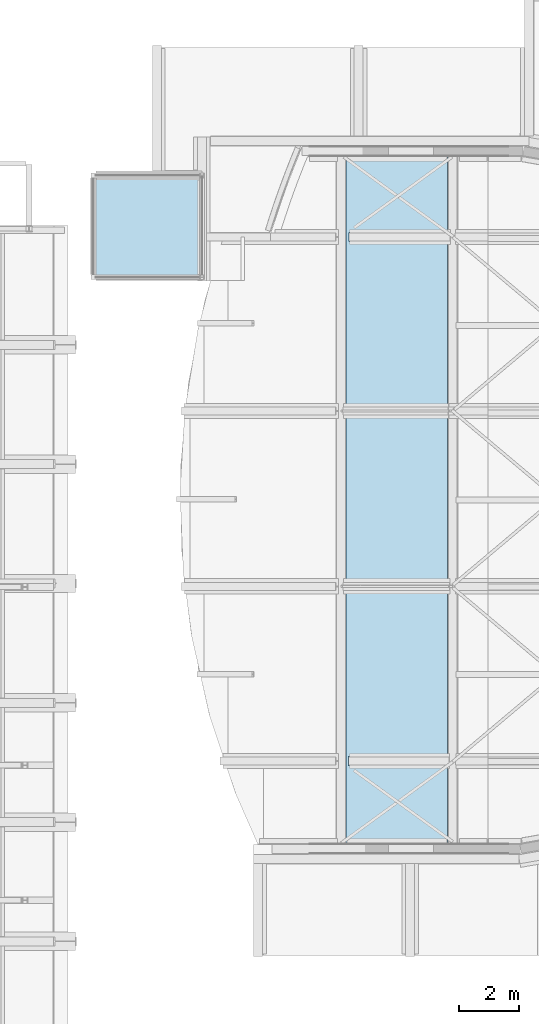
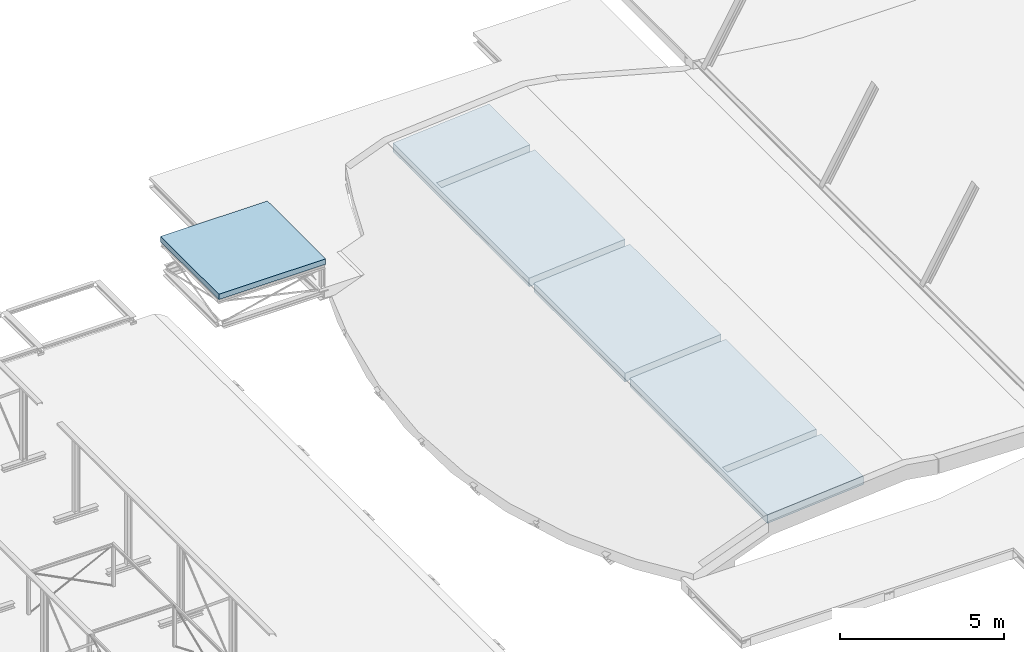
# One storey, part 37 of 50: 2 slabs, 8 openings.
"""IFC2X3 building model written with IfcOpenShell, lengths in millimetres."""

from ifc_helpers import new_model, entity, si_unit, converted_unit, derived_unit, direction, frame, frame_2d, origin, place, context, subcontext, project, spatial, rectangle, extrude, faceted_brep, material, layer, layer_set, layer_usage, type_object, element, save


model = new_model("IFC2X3")

# Units and contexts
model_context = context("Model", 3, precision=0.01, world=origin(), true_north=direction((6.12303176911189e-17, 1.0)))
body_context = subcontext(model_context, "Body", "Model", "MODEL_VIEW")
ifc_project = project(units=[si_unit("LENGTHUNIT", "METRE", prefix="MILLI"), si_unit("AREAUNIT", "SQUARE_METRE", prefix="MILLI"), si_unit("VOLUMEUNIT", "CUBIC_METRE"), converted_unit("PLANEANGLEUNIT", "DEGREE", entity("IfcRatioMeasure", 0.0174532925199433), si_unit("PLANEANGLEUNIT", "RADIAN"), dimensions=[0, 0, 0, 0, 0, 0, 0]), si_unit("MASSUNIT", "GRAM", prefix="KILO"), derived_unit("MASSDENSITYUNIT", [(si_unit("MASSUNIT", "GRAM", prefix="KILO"), 1), (si_unit("LENGTHUNIT", "METRE"), -3)]), derived_unit("MOMENTOFINERTIAUNIT", [(si_unit("LENGTHUNIT", "METRE"), 4)]), si_unit("TIMEUNIT", "SECOND"), si_unit("FREQUENCYUNIT", "HERTZ"), si_unit("THERMODYNAMICTEMPERATUREUNIT", "DEGREE_CELSIUS"), derived_unit("THERMALTRANSMITTANCEUNIT", [(si_unit("MASSUNIT", "GRAM", prefix="KILO"), 1), (si_unit("THERMODYNAMICTEMPERATUREUNIT", "KELVIN"), -1), (si_unit("TIMEUNIT", "SECOND"), -3)]), derived_unit("VOLUMETRICFLOWRATEUNIT", [(si_unit("LENGTHUNIT", "METRE"), 3), (si_unit("TIMEUNIT", "SECOND"), -1)]), si_unit("ELECTRICCURRENTUNIT", "AMPERE"), si_unit("ELECTRICVOLTAGEUNIT", "VOLT"), si_unit("POWERUNIT", "WATT"), si_unit("FORCEUNIT", "NEWTON", prefix="KILO"), si_unit("ILLUMINANCEUNIT", "LUX"), si_unit("LUMINOUSFLUXUNIT", "LUMEN"), si_unit("LUMINOUSINTENSITYUNIT", "CANDELA"), derived_unit("USERDEFINED", [(si_unit("MASSUNIT", "GRAM", prefix="KILO"), -1), (si_unit("LENGTHUNIT", "METRE"), -2), (si_unit("TIMEUNIT", "SECOND"), 3), (si_unit("LUMINOUSFLUXUNIT", "LUMEN"), 1)]), derived_unit("LINEARVELOCITYUNIT", [(si_unit("LENGTHUNIT", "METRE"), 1), (si_unit("TIMEUNIT", "SECOND"), -1)]), si_unit("PRESSUREUNIT", "PASCAL"), derived_unit("USERDEFINED", [(si_unit("LENGTHUNIT", "METRE"), -2), (si_unit("MASSUNIT", "GRAM", prefix="KILO"), 1), (si_unit("TIMEUNIT", "SECOND"), -2)]), derived_unit("LINEARFORCEUNIT", [(si_unit("MASSUNIT", "GRAM", prefix="KILO"), 1), (si_unit("LENGTHUNIT", "METRE"), 1), (si_unit("TIMEUNIT", "SECOND"), -2), (si_unit("LENGTHUNIT", "METRE"), -1)]), derived_unit("PLANARFORCEUNIT", [(si_unit("MASSUNIT", "GRAM", prefix="KILO"), 1), (si_unit("LENGTHUNIT", "METRE"), 1), (si_unit("TIMEUNIT", "SECOND"), -2), (si_unit("LENGTHUNIT", "METRE"), -2)])], contexts=[model_context])

# Site, building, storey
site_placement = place(None, origin())
site = spatial("IfcSite", under=ifc_project, at=site_placement, Name="Theater aan de Parade", CompositionType="ELEMENT")
building_placement = place(site_placement, origin())
building = spatial("IfcBuilding", under=site, at=building_placement, Name="Theater aan de Parade", CompositionType="ELEMENT")
storey_placement = place(building_placement, frame((0.0, 0.0, 15820.0)))
storey = spatial("IfcBuildingStorey", under=building, at=storey_placement, Name="04 vierde verdieping", CompositionType="ELEMENT", Elevation=15820.0)

# Slab, openings
ifc_material_1 = material(Name="00_PBT_MAT_systeemvloer")
ifc_layer_1 = layer(ifc_material_1, 320.0)
ifc_layer_set_1 = layer_set([ifc_layer_1], Name="Floor:28_PBT_FL_kanaalplaat_d=320")
ifc_layer_usage_1 = layer_usage(ifc_layer_set_1, "AXIS3", "POSITIVE", 0.0)
slab_type_1 = type_object("IfcSlabType", Name="Floor:28_PBT_FL_kanaalplaat_d=320", PredefinedType="FLOOR")
slab_1_placement = place(storey_placement, frame((45780.0, 20980.0, 1322.41958552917)))
slab_1 = element("IfcSlab", 1, at=slab_1_placement, inside=storey, type_object=slab_type_1, material=ifc_layer_usage_1, Name="Floor:28_PBT_FL_kanaalplaat_d=320", ObjectType="Floor:28_PBT_FL_kanaalplaat_d=320", PredefinedType="FLOOR", context=body_context, shape_type="SweptSolid", body=[
    extrude(rectangle(XDim=3395.80352451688, YDim=22879.9999999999, at=frame_2d((1128.1289211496, -742.555229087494), x_axis=(-1.0, 0.0))), frame((567.96014646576, 12182.5552290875, 366.434549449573), z_axis=(-0.079704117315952, 0.0, 0.996818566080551), x_axis=(0.996818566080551, 0.0, 0.0797041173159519)), (-0.0797041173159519, 0.0, -0.996818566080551), 321.021308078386),
])
opening_1_placement = place(slab_1_placement, frame((76.0079135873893, 2473.93663264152, 3.18347489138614)))
element("IfcOpeningElement", 2, at=opening_1_placement, cuts=slab_1, ObjectType="Opening", context=body_context, shape_type="Brep", body=[
    faceted_brep([(3344.51160539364, 105.0, 591.29730859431), (3344.51160539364, 405.0, 591.29730859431), (0.0, 105.0, 323.966738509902), (0.0, 405.0, 323.966738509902), (3370.247276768, 0.0, 269.324211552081), (3370.32695376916, 0.0, 268.327390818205), (3370.32695376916, 105.0, 268.327390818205), (3370.32695376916, 405.0, 268.327390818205), (3370.40663077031, 105.0, 267.33057008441), (3370.40663077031, 405.0, 267.33057008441), (3370.247276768, 510.0, 269.324211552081), (3370.32695376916, 510.0, 268.327390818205), (3370.247276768, 405.0, 269.324211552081), (3370.247276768, 105.0, 269.324211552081), (25.815348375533, 105.0, 0.996820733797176), (25.815348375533, 0.0, 0.996820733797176), (25.7356713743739, 0.0, 1.99364146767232), (25.8950253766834, 105.0, 0.0), (25.815348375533, 405.0, 0.996820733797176), (25.8950253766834, 405.0, 0.0), (25.815348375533, 510.0, 0.996820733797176), (25.7356713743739, 510.0, 1.99364146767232), (25.7356713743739, 405.0, 1.99364146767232), (25.7356713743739, 105.0, 1.99364146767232), (2871.91658683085, 405.0, 228.488890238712), (2871.83690982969, 405.0, 229.485710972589), (175.338458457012, 405.0, 12.9483709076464), (175.258781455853, 405.0, 13.9451916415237), (2971.51898321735, 105.0, 237.453411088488), (2971.59866021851, 105.0, 236.45659035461), (125.497421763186, 105.0, 8.96452084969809), (125.417744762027, 105.0, 9.96134158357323), (175.258781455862, 510.0, 13.9451916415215), (175.338458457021, 510.0, 12.9483709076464), (125.417744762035, 0.0, 9.96134158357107), (125.497421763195, 0.0, 8.96452084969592), (2871.83690982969, 510.0, 229.485710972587), (2871.91658683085, 510.0, 228.488890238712), (2971.51898321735, 0.0, 237.453411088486), (2971.59866021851, 0.0, 236.45659035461)], [[[0, 1, 2]], [[3, 2, 1]], [[4, 5, 6]], [[7, 6, 8]], [[8, 9, 7]], [[10, 7, 11]], [[7, 12, 6]], [[1, 0, 13]], [[6, 12, 13]], [[12, 7, 10]], [[13, 12, 1]], [[13, 4, 6]], [[14, 15, 16]], [[17, 14, 18]], [[18, 19, 17]], [[20, 18, 21]], [[14, 22, 18]], [[23, 2, 3]], [[23, 22, 14]], [[21, 18, 22]], [[3, 22, 23]], [[14, 16, 23]], [[9, 24, 7]], [[24, 9, 19]], [[1, 12, 25]], [[1, 25, 3]], [[24, 26, 25]], [[26, 19, 18]], [[19, 26, 24]], [[27, 22, 3]], [[27, 3, 25]], [[26, 27, 25]], [[0, 28, 13]], [[28, 0, 2]], [[8, 6, 29]], [[8, 29, 17]], [[28, 30, 29]], [[31, 2, 23]], [[2, 31, 28]], [[30, 14, 17]], [[30, 17, 29]], [[31, 30, 28]], [[9, 8, 19]], [[17, 19, 8]], [[22, 27, 32]], [[32, 21, 22]], [[20, 33, 26]], [[26, 18, 20]], [[32, 27, 33]], [[26, 33, 27]], [[21, 32, 33]], [[33, 20, 21]], [[34, 31, 16]], [[23, 16, 31]], [[15, 14, 35]], [[30, 35, 14]], [[34, 16, 15]], [[15, 35, 34]], [[31, 34, 35]], [[35, 30, 31]], [[25, 12, 36]], [[10, 36, 12]], [[37, 11, 24]], [[7, 24, 11]], [[36, 10, 11]], [[11, 37, 36]], [[25, 36, 37]], [[37, 24, 25]], [[38, 4, 13]], [[13, 28, 38]], [[29, 6, 5]], [[5, 39, 29]], [[38, 28, 29]], [[29, 39, 38]], [[4, 38, 39]], [[39, 5, 4]]]),
])
opening_2_placement = place(slab_1_placement, frame((-108.225878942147, 8302.98799142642, -11.5425391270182)))
element("IfcOpeningElement", 3, at=opening_2_placement, cuts=slab_1, ObjectType="Opening", context=body_context, shape_type="Brep", body=[
    faceted_brep([(3548.68181260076, 105.0, 607.616862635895), (3548.68181260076, 405.0, 607.616862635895), (0.0, 405.0, 323.966738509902), (0.0, 105.0, 323.966738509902), (3574.41748397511, 0.0, 285.643765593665), (3574.49716097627, 0.0, 284.64694485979), (3574.49716097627, 105.0, 284.64694485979), (3574.49716097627, 405.0, 284.64694485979), (3574.57683797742, 105.0, 283.650124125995), (3574.57683797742, 405.0, 283.650124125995), (3574.41748397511, 510.0, 285.643765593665), (3574.49716097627, 510.0, 284.64694485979), (3574.41748397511, 405.0, 285.643765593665), (3574.41748397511, 105.0, 285.643765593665), (25.815348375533, 105.0, 0.996820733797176), (25.815348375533, 0.0, 0.996820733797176), (25.7356713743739, 0.0, 1.99364146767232), (25.8950253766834, 105.0, 0.0), (25.815348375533, 405.0, 0.996820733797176), (25.8950253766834, 405.0, 0.0), (25.815348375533, 510.0, 0.996820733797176), (25.7356713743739, 510.0, 1.99364146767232), (25.7356713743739, 405.0, 1.99364146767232), (25.7356713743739, 105.0, 1.99364146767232), (3076.08679403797, 405.0, 244.808444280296), (3076.00711703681, 405.0, 245.805265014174), (175.338458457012, 405.0, 12.9483709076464), (175.258781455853, 405.0, 13.9451916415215), (3175.68919042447, 105.0, 253.772965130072), (3175.76886742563, 105.0, 252.776144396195), (125.497421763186, 105.0, 8.96452084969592), (125.417744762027, 105.0, 9.96134158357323), (175.258781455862, 510.0, 13.9451916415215), (175.338458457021, 510.0, 12.9483709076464), (125.417744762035, 0.0, 9.96134158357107), (125.497421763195, 0.0, 8.96452084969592), (3076.00711703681, 510.0, 245.805265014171), (3076.08679403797, 510.0, 244.808444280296), (3175.68919042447, 0.0, 253.77296513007), (3175.76886742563, 0.0, 252.776144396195)], [[[0, 1, 2]], [[2, 3, 0]], [[4, 5, 6]], [[7, 6, 8]], [[8, 9, 7]], [[10, 7, 11]], [[7, 12, 6]], [[1, 0, 13]], [[6, 12, 13]], [[12, 7, 10]], [[13, 12, 1]], [[13, 4, 6]], [[14, 15, 16]], [[17, 14, 18]], [[18, 19, 17]], [[20, 18, 21]], [[14, 22, 18]], [[23, 3, 2]], [[23, 22, 14]], [[21, 18, 22]], [[2, 22, 23]], [[14, 16, 23]], [[9, 24, 7]], [[24, 9, 19]], [[1, 12, 25]], [[1, 25, 2]], [[24, 26, 25]], [[26, 19, 18]], [[19, 26, 24]], [[27, 22, 2]], [[27, 2, 25]], [[26, 27, 25]], [[0, 28, 13]], [[28, 0, 3]], [[8, 6, 29]], [[8, 29, 17]], [[28, 30, 29]], [[31, 3, 23]], [[3, 31, 28]], [[30, 14, 17]], [[30, 17, 29]], [[31, 30, 28]], [[9, 8, 17]], [[17, 19, 9]], [[22, 27, 32]], [[32, 21, 22]], [[20, 33, 26]], [[26, 18, 20]], [[32, 27, 33]], [[26, 33, 27]], [[21, 32, 33]], [[33, 20, 21]], [[34, 31, 16]], [[23, 16, 31]], [[15, 14, 35]], [[30, 35, 14]], [[34, 16, 15]], [[15, 35, 34]], [[31, 34, 35]], [[35, 30, 31]], [[25, 12, 36]], [[10, 36, 12]], [[37, 11, 24]], [[7, 24, 11]], [[36, 10, 11]], [[11, 37, 36]], [[25, 36, 37]], [[37, 24, 25]], [[38, 4, 13]], [[13, 28, 38]], [[29, 6, 5]], [[5, 39, 29]], [[38, 28, 29]], [[29, 39, 38]], [[4, 38, 39]], [[39, 5, 4]]]),
])
opening_3_placement = place(slab_1_placement, frame((-108.225878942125, 14154.5120085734, -11.5425391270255)))
element("IfcOpeningElement", 4, at=opening_3_placement, cuts=slab_1, ObjectType="Opening", context=body_context, shape_type="Brep", body=[
    faceted_brep([(3496.14935931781, 105.0, 603.417884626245), (3496.14935931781, 405.0, 603.417884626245), (0.0, 405.0, 323.966738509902), (0.0, 105.0, 323.966738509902), (3521.88503069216, 0.0, 281.444787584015), (3521.96470769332, 0.0, 280.44796685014), (3521.96470769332, 105.0, 280.44796685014), (3521.96470769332, 405.0, 280.44796685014), (3522.04438469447, 105.0, 279.451146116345), (3522.04438469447, 405.0, 279.451146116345), (3521.88503069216, 510.0, 281.444787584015), (3521.96470769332, 510.0, 280.44796685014), (3521.88503069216, 405.0, 281.444787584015), (3521.88503069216, 105.0, 281.444787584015), (25.815348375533, 105.0, 0.996820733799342), (25.815348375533, 0.0, 0.996820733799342), (25.7356713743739, 0.0, 1.99364146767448), (25.8950253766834, 105.0, 0.0), (25.815348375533, 405.0, 0.996820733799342), (25.8950253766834, 405.0, 0.0), (25.815348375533, 510.0, 0.996820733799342), (25.7356713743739, 510.0, 1.99364146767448), (25.7356713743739, 405.0, 1.99364146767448), (25.7356713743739, 105.0, 1.99364146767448), (3023.55434075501, 405.0, 240.609466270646), (3023.47466375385, 405.0, 241.606287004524), (175.338458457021, 405.0, 12.9483709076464), (175.258781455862, 405.0, 13.9451916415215), (3123.15673714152, 105.0, 249.573987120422), (3123.23641414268, 105.0, 248.577166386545), (125.497421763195, 105.0, 8.96452084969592), (125.417744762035, 105.0, 9.96134158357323), (175.258781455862, 510.0, 13.9451916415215), (175.338458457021, 510.0, 12.9483709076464), (125.417744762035, 0.0, 9.96134158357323), (125.497421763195, 0.0, 8.96452084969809), (3023.47466375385, 510.0, 241.606287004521), (3023.55434075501, 510.0, 240.609466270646), (3123.15673714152, 0.0, 249.57398712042), (3123.23641414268, 0.0, 248.577166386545)], [[[0, 1, 2]], [[2, 3, 0]], [[4, 5, 6]], [[7, 6, 8]], [[8, 9, 7]], [[10, 7, 11]], [[7, 12, 6]], [[1, 0, 13]], [[6, 12, 13]], [[12, 7, 10]], [[13, 12, 1]], [[13, 4, 6]], [[14, 15, 16]], [[17, 14, 18]], [[18, 19, 17]], [[20, 18, 21]], [[14, 22, 18]], [[23, 3, 2]], [[23, 22, 14]], [[21, 18, 22]], [[2, 22, 23]], [[14, 16, 23]], [[9, 24, 7]], [[24, 9, 19]], [[1, 12, 25]], [[1, 25, 2]], [[24, 26, 25]], [[26, 19, 18]], [[19, 26, 24]], [[27, 22, 2]], [[27, 2, 25]], [[26, 27, 25]], [[0, 28, 13]], [[28, 0, 3]], [[8, 6, 29]], [[8, 29, 17]], [[28, 30, 29]], [[31, 3, 23]], [[3, 31, 28]], [[30, 14, 17]], [[30, 17, 29]], [[31, 30, 28]], [[9, 8, 17]], [[17, 19, 9]], [[22, 27, 32]], [[32, 21, 22]], [[20, 33, 26]], [[26, 18, 20]], [[32, 27, 33]], [[26, 33, 27]], [[21, 32, 33]], [[33, 20, 21]], [[34, 31, 23]], [[23, 16, 34]], [[15, 14, 35]], [[30, 35, 14]], [[34, 16, 15]], [[15, 35, 34]], [[31, 34, 35]], [[35, 30, 31]], [[25, 12, 36]], [[10, 36, 12]], [[37, 11, 24]], [[7, 24, 11]], [[36, 10, 11]], [[11, 37, 36]], [[25, 36, 37]], [[37, 24, 25]], [[38, 4, 13]], [[13, 28, 38]], [[29, 6, 5]], [[5, 39, 29]], [[38, 28, 29]], [[29, 39, 38]], [[4, 38, 39]], [[39, 5, 4]]]),
])
opening_4_placement = place(slab_1_placement, frame((86.3540673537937, 19963.5633673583, 4.0104545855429)))
element("IfcOpeningElement", 5, at=opening_4_placement, cuts=slab_1, ObjectType="Opening", context=body_context, shape_type="Brep", body=[
    faceted_brep([(3374.03828098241, 105.0, 593.657408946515), (3374.03828098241, 405.0, 593.657408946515), (0.0, 105.0, 323.966738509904), (0.0, 405.0, 323.966738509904), (3399.77395235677, 0.0, 271.684311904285), (3399.85362935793, 0.0, 270.68749117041), (3399.85362935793, 105.0, 270.68749117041), (3399.85362935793, 405.0, 270.68749117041), (3399.93330635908, 105.0, 269.690670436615), (3399.93330635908, 405.0, 269.690670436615), (3399.77395235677, 510.0, 271.684311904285), (3399.85362935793, 510.0, 270.68749117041), (3399.77395235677, 405.0, 271.684311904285), (3399.77395235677, 105.0, 271.684311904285), (25.815348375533, 105.0, 0.996820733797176), (25.815348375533, 0.0, 0.996820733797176), (25.7356713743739, 0.0, 1.99364146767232), (25.8950253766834, 105.0, 0.0), (25.815348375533, 405.0, 0.996820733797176), (25.8950253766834, 405.0, 0.0), (25.815348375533, 510.0, 0.996820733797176), (25.7356713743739, 510.0, 1.99364146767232), (25.7356713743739, 405.0, 1.99364146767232), (25.7356713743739, 105.0, 1.99364146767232), (2901.44326241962, 405.0, 230.848990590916), (2901.36358541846, 405.0, 231.845811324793), (175.338458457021, 405.0, 12.9483709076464), (175.258781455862, 405.0, 13.9451916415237), (3001.04565880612, 105.0, 239.813511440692), (3001.12533580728, 105.0, 238.816690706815), (125.497421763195, 105.0, 8.96452084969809), (125.417744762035, 105.0, 9.96134158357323), (175.258781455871, 510.0, 13.9451916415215), (175.33845845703, 510.0, 12.9483709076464), (125.417744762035, 0.0, 9.96134158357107), (125.497421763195, 0.0, 8.96452084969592), (2901.36358541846, 510.0, 231.845811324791), (2901.44326241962, 510.0, 230.848990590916), (3001.04565880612, 0.0, 239.81351144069), (3001.12533580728, 0.0, 238.816690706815)], [[[0, 1, 2]], [[3, 2, 1]], [[4, 5, 6]], [[7, 6, 8]], [[8, 9, 7]], [[10, 7, 11]], [[7, 12, 6]], [[1, 0, 13]], [[6, 12, 13]], [[12, 7, 10]], [[13, 12, 1]], [[13, 4, 6]], [[14, 15, 16]], [[17, 14, 18]], [[18, 19, 17]], [[20, 18, 21]], [[14, 22, 18]], [[23, 2, 3]], [[23, 22, 14]], [[21, 18, 22]], [[3, 22, 23]], [[14, 16, 23]], [[9, 24, 7]], [[24, 9, 19]], [[1, 12, 25]], [[1, 25, 3]], [[24, 26, 25]], [[26, 19, 18]], [[19, 26, 24]], [[27, 22, 3]], [[27, 3, 25]], [[26, 27, 25]], [[0, 28, 13]], [[28, 0, 2]], [[8, 6, 29]], [[8, 29, 17]], [[28, 30, 29]], [[31, 2, 23]], [[2, 31, 28]], [[30, 14, 17]], [[30, 17, 29]], [[31, 30, 28]], [[9, 8, 19]], [[17, 19, 8]], [[22, 27, 32]], [[32, 21, 22]], [[20, 33, 26]], [[26, 18, 20]], [[32, 27, 33]], [[26, 33, 27]], [[21, 32, 33]], [[33, 20, 21]], [[34, 31, 16]], [[23, 16, 31]], [[15, 14, 35]], [[30, 35, 14]], [[34, 16, 15]], [[15, 35, 34]], [[31, 34, 35]], [[35, 30, 31]], [[25, 12, 36]], [[10, 36, 12]], [[37, 11, 24]], [[7, 24, 11]], [[36, 10, 11]], [[11, 37, 36]], [[25, 36, 37]], [[37, 24, 25]], [[38, 4, 13]], [[13, 28, 38]], [[29, 6, 5]], [[5, 39, 29]], [[38, 28, 29]], [[29, 39, 38]], [[4, 38, 39]], [[39, 5, 4]]]),
])
opening_5_placement = place(slab_1_placement, frame((4528.62658293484, 19963.5633673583, 41.1030210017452)))
element("IfcOpeningElement", 6, at=opening_5_placement, cuts=slab_1, ObjectType="Opening", context=body_context, shape_type="Brep", body=[
    faceted_brep([(2322.524384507, 105.0, 320.998710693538), (2322.524384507, 405.0, 320.998710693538), (50.8412011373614, 405.0, 680.797980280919), (50.8412011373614, 105.0, 680.797980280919), (2271.99605229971, 0.0, 1.97537668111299), (2271.83961783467, 0.0, 0.987688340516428), (2271.83961783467, 105.0, 0.987688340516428), (2271.83961783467, 405.0, 0.987688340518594), (2271.68318336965, 105.0, 0.0), (2271.68318336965, 405.0, 0.0), (2271.99605229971, 510.0, 1.97537668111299), (2271.83961783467, 510.0, 0.987688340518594), (2271.99605229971, 405.0, 1.97537668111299), (2271.99605229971, 105.0, 1.97537668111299), (0.156434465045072, 105.0, 360.7869579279), (0.156434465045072, 0.0, 360.7869579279), (0.312868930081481, 0.0, 361.774646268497), (0.0, 105.0, 359.799269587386), (0.156434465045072, 405.0, 360.7869579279), (0.0, 405.0, 359.799269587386), (0.156434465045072, 510.0, 360.7869579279), (0.312868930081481, 510.0, 361.774646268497), (0.312868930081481, 405.0, 361.774646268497), (0.312868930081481, 105.0, 361.774646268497), (1777.99544753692, 405.0, 79.2049208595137), (1778.15188200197, 405.0, 80.1926092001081), (148.309685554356, 405.0, 337.321788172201), (148.466120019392, 405.0, 338.309476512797), (1876.92071606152, 105.0, 64.5491626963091), (1876.76428159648, 105.0, 63.5614743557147), (98.9252685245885, 105.0, 345.143511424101), (99.0817029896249, 105.0, 346.131199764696), (148.466120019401, 510.0, 338.309476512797), (148.309685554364, 510.0, 337.321788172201), (99.0817029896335, 0.0, 346.131199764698), (98.9252685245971, 0.0, 345.143511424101), (1778.15188200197, 510.0, 80.1926092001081), (1777.99544753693, 510.0, 79.2049208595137), (1876.92071606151, 0.0, 64.5491626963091), (1876.76428159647, 0.0, 63.5614743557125)], [[[0, 1, 2]], [[2, 3, 0]], [[4, 5, 6]], [[7, 6, 8]], [[8, 9, 7]], [[10, 7, 11]], [[7, 12, 6]], [[1, 0, 13]], [[6, 12, 13]], [[12, 7, 10]], [[13, 12, 1]], [[13, 4, 6]], [[14, 15, 16]], [[17, 14, 18]], [[18, 19, 17]], [[20, 18, 21]], [[14, 22, 18]], [[23, 3, 2]], [[23, 22, 14]], [[21, 18, 22]], [[2, 22, 23]], [[14, 16, 23]], [[9, 24, 7]], [[24, 9, 19]], [[1, 12, 25]], [[1, 25, 2]], [[24, 26, 25]], [[26, 19, 18]], [[19, 26, 24]], [[27, 22, 2]], [[27, 2, 25]], [[26, 27, 25]], [[0, 28, 13]], [[28, 0, 3]], [[8, 6, 29]], [[8, 29, 17]], [[28, 30, 29]], [[31, 3, 23]], [[3, 31, 28]], [[30, 14, 17]], [[30, 17, 29]], [[31, 30, 28]], [[9, 8, 17]], [[17, 19, 9]], [[22, 27, 32]], [[32, 21, 22]], [[20, 33, 26]], [[26, 18, 20]], [[32, 27, 33]], [[26, 33, 27]], [[21, 32, 33]], [[33, 20, 21]], [[34, 31, 16]], [[23, 16, 31]], [[15, 14, 35]], [[30, 35, 14]], [[34, 16, 15]], [[15, 35, 34]], [[31, 34, 35]], [[35, 30, 31]], [[25, 12, 36]], [[10, 36, 12]], [[37, 11, 7]], [[7, 24, 37]], [[36, 10, 11]], [[11, 37, 36]], [[25, 36, 37]], [[37, 24, 25]], [[38, 4, 13]], [[13, 28, 38]], [[29, 6, 5]], [[5, 39, 29]], [[38, 28, 29]], [[29, 39, 38]], [[4, 38, 39]], [[39, 5, 4]]]),
])
opening_6_placement = place(slab_1_placement, frame((4528.6265829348, 14154.5120085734, 41.1030210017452)))
element("IfcOpeningElement", 7, at=opening_6_placement, cuts=slab_1, ObjectType="Opening", context=body_context, shape_type="Brep", body=[
    faceted_brep([(2322.524384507, 105.0, 320.998710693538), (2322.524384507, 405.0, 320.998710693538), (50.8412011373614, 405.0, 680.797980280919), (50.8412011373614, 105.0, 680.797980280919), (2271.99605229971, 0.0, 1.97537668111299), (2271.83961783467, 0.0, 0.987688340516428), (2271.83961783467, 105.0, 0.987688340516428), (2271.83961783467, 405.0, 0.987688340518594), (2271.68318336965, 105.0, 0.0), (2271.68318336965, 405.0, 0.0), (2271.99605229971, 510.0, 1.97537668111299), (2271.83961783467, 510.0, 0.987688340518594), (2271.99605229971, 405.0, 1.97537668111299), (2271.99605229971, 105.0, 1.97537668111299), (0.156434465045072, 105.0, 360.7869579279), (0.156434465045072, 0.0, 360.7869579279), (0.312868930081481, 0.0, 361.774646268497), (0.0, 105.0, 359.799269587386), (0.156434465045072, 405.0, 360.7869579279), (0.0, 405.0, 359.799269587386), (0.156434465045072, 510.0, 360.7869579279), (0.312868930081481, 510.0, 361.774646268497), (0.312868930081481, 405.0, 361.774646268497), (0.312868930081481, 105.0, 361.774646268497), (1777.99544753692, 405.0, 79.2049208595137), (1778.15188200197, 405.0, 80.1926092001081), (148.309685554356, 405.0, 337.321788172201), (148.466120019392, 405.0, 338.309476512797), (1876.92071606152, 105.0, 64.5491626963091), (1876.76428159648, 105.0, 63.5614743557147), (98.9252685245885, 105.0, 345.143511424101), (99.0817029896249, 105.0, 346.131199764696), (148.466120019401, 510.0, 338.309476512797), (148.309685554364, 510.0, 337.321788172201), (99.0817029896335, 0.0, 346.131199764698), (98.9252685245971, 0.0, 345.143511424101), (1778.15188200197, 510.0, 80.1926092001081), (1777.99544753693, 510.0, 79.2049208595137), (1876.92071606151, 0.0, 64.5491626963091), (1876.76428159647, 0.0, 63.5614743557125)], [[[0, 1, 2]], [[2, 3, 0]], [[4, 5, 6]], [[7, 6, 8]], [[8, 9, 7]], [[10, 7, 11]], [[7, 12, 6]], [[1, 0, 13]], [[6, 12, 13]], [[12, 7, 10]], [[13, 12, 1]], [[13, 4, 6]], [[14, 15, 16]], [[17, 14, 18]], [[18, 19, 17]], [[20, 18, 21]], [[14, 22, 18]], [[23, 3, 2]], [[23, 22, 14]], [[21, 18, 22]], [[2, 22, 23]], [[14, 16, 23]], [[9, 24, 7]], [[24, 9, 19]], [[1, 12, 25]], [[1, 25, 2]], [[24, 26, 25]], [[26, 19, 18]], [[19, 26, 24]], [[27, 22, 2]], [[27, 2, 25]], [[26, 27, 25]], [[0, 28, 13]], [[28, 0, 3]], [[8, 6, 29]], [[8, 29, 17]], [[28, 30, 29]], [[31, 3, 23]], [[3, 31, 28]], [[30, 14, 17]], [[30, 17, 29]], [[31, 30, 28]], [[9, 8, 17]], [[17, 19, 9]], [[22, 27, 32]], [[32, 21, 22]], [[20, 33, 26]], [[26, 18, 20]], [[32, 27, 33]], [[26, 33, 27]], [[21, 32, 33]], [[33, 20, 21]], [[34, 31, 16]], [[23, 16, 31]], [[15, 14, 35]], [[30, 35, 14]], [[34, 16, 15]], [[15, 35, 34]], [[31, 34, 35]], [[35, 30, 31]], [[25, 12, 36]], [[10, 36, 12]], [[37, 11, 7]], [[7, 24, 37]], [[36, 10, 11]], [[11, 37, 36]], [[25, 36, 37]], [[37, 24, 25]], [[38, 4, 13]], [[13, 28, 38]], [[29, 6, 5]], [[5, 39, 29]], [[38, 28, 29]], [[29, 39, 38]], [[4, 38, 39]], [[39, 5, 4]]]),
])
opening_7_placement = place(slab_1_placement, frame((3620.47701462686, 8302.98799142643, 286.496872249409)))
element("IfcOpeningElement", 8, at=opening_7_placement, cuts=slab_1, ObjectType="Opening", context=body_context, shape_type="Brep", body=[
    faceted_brep([(1315.80336871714, 105.0, 429.140380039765), (1315.80336871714, 405.0, 429.140380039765), (0.0, 105.0, 323.966738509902), (0.0, 405.0, 323.966738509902), (1341.5390400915, 0.0, 107.167282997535), (1341.61871709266, 0.0, 106.17046226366), (1341.61871709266, 105.0, 106.17046226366), (1341.61871709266, 405.0, 106.17046226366), (1341.69839409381, 105.0, 105.173641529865), (1341.69839409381, 405.0, 105.173641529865), (1341.5390400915, 510.0, 107.167282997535), (1341.61871709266, 510.0, 106.17046226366), (1341.5390400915, 405.0, 107.167282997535), (1341.5390400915, 105.0, 107.167282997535), (25.815348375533, 105.0, 0.996820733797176), (25.815348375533, 0.0, 0.996820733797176), (25.7356713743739, 0.0, 1.99364146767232), (25.8950253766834, 105.0, 0.0), (25.815348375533, 405.0, 0.996820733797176), (25.8950253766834, 405.0, 0.0), (25.815348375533, 510.0, 0.996820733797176), (25.7356713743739, 510.0, 1.99364146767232), (25.7356713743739, 405.0, 1.99364146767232), (25.7356713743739, 105.0, 1.99364146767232), (843.208350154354, 405.0, 66.331961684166), (843.128673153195, 405.0, 67.3287824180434), (175.338458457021, 405.0, 12.9483709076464), (175.258781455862, 405.0, 13.9451916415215), (942.810746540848, 105.0, 75.2964825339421), (942.890423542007, 105.0, 74.2996618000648), (125.497421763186, 105.0, 8.96452084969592), (125.417744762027, 105.0, 9.96134158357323), (175.258781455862, 510.0, 13.9451916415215), (175.338458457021, 510.0, 12.9483709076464), (125.417744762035, 0.0, 9.96134158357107), (125.497421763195, 0.0, 8.96452084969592), (843.128673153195, 510.0, 67.3287824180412), (843.208350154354, 510.0, 66.331961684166), (942.810746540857, 0.0, 75.2964825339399), (942.890423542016, 0.0, 74.2996618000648)], [[[0, 1, 2]], [[3, 2, 1]], [[4, 5, 6]], [[7, 6, 8]], [[8, 9, 7]], [[10, 7, 11]], [[7, 12, 6]], [[1, 0, 13]], [[6, 12, 13]], [[12, 7, 10]], [[13, 12, 1]], [[13, 4, 6]], [[14, 15, 16]], [[17, 14, 18]], [[18, 19, 17]], [[20, 18, 21]], [[14, 22, 18]], [[23, 2, 3]], [[23, 22, 14]], [[21, 18, 22]], [[3, 22, 23]], [[14, 16, 23]], [[9, 24, 7]], [[24, 9, 19]], [[1, 12, 25]], [[1, 25, 3]], [[24, 26, 25]], [[26, 19, 18]], [[19, 26, 24]], [[27, 22, 3]], [[27, 3, 25]], [[26, 27, 25]], [[0, 28, 13]], [[28, 0, 2]], [[8, 6, 29]], [[8, 29, 17]], [[28, 30, 29]], [[31, 2, 23]], [[2, 31, 28]], [[30, 14, 17]], [[30, 17, 29]], [[31, 30, 28]], [[9, 8, 19]], [[17, 19, 8]], [[22, 27, 32]], [[32, 21, 22]], [[20, 33, 26]], [[26, 18, 20]], [[32, 27, 33]], [[26, 33, 27]], [[21, 32, 33]], [[33, 20, 21]], [[34, 31, 16]], [[23, 16, 31]], [[15, 14, 35]], [[30, 35, 14]], [[34, 16, 15]], [[15, 35, 34]], [[31, 34, 35]], [[35, 30, 31]], [[25, 12, 36]], [[10, 36, 12]], [[37, 11, 7]], [[7, 24, 37]], [[36, 10, 11]], [[11, 37, 36]], [[25, 36, 37]], [[37, 24, 25]], [[38, 4, 13]], [[13, 28, 38]], [[29, 6, 5]], [[5, 39, 29]], [[38, 28, 29]], [[29, 39, 38]], [[4, 38, 39]], [[39, 5, 4]]]),
])
opening_8_placement = place(slab_1_placement, frame((4528.62658293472, 2473.93663264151, 41.1030210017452)))
element("IfcOpeningElement", 9, at=opening_8_placement, cuts=slab_1, ObjectType="Opening", context=body_context, shape_type="Brep", body=[
    faceted_brep([(2322.524384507, 105.0, 320.998710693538), (2322.524384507, 405.0, 320.998710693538), (50.8412011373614, 405.0, 680.797980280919), (50.8412011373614, 105.0, 680.797980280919), (2271.99605229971, 0.0, 1.97537668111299), (2271.83961783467, 0.0, 0.987688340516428), (2271.83961783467, 105.0, 0.987688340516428), (2271.83961783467, 405.0, 0.987688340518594), (2271.68318336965, 105.0, 0.0), (2271.68318336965, 405.0, 0.0), (2271.99605229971, 510.0, 1.97537668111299), (2271.83961783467, 510.0, 0.987688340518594), (2271.99605229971, 405.0, 1.97537668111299), (2271.99605229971, 105.0, 1.97537668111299), (0.156434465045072, 105.0, 360.7869579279), (0.156434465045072, 0.0, 360.7869579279), (0.312868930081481, 0.0, 361.774646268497), (0.0, 105.0, 359.799269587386), (0.156434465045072, 405.0, 360.7869579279), (0.0, 405.0, 359.799269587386), (0.156434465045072, 510.0, 360.7869579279), (0.312868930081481, 510.0, 361.774646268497), (0.312868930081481, 405.0, 361.774646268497), (0.312868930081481, 105.0, 361.774646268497), (1777.99544753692, 405.0, 79.2049208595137), (1778.15188200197, 405.0, 80.1926092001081), (148.309685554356, 405.0, 337.321788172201), (148.466120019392, 405.0, 338.309476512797), (1876.92071606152, 105.0, 64.5491626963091), (1876.76428159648, 105.0, 63.5614743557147), (98.9252685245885, 105.0, 345.143511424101), (99.0817029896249, 105.0, 346.131199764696), (148.466120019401, 510.0, 338.309476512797), (148.309685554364, 510.0, 337.321788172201), (99.0817029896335, 0.0, 346.131199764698), (98.9252685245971, 0.0, 345.143511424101), (1778.15188200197, 510.0, 80.1926092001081), (1777.99544753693, 510.0, 79.2049208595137), (1876.92071606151, 0.0, 64.5491626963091), (1876.76428159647, 0.0, 63.5614743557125)], [[[0, 1, 2]], [[2, 3, 0]], [[4, 5, 6]], [[7, 6, 8]], [[8, 9, 7]], [[10, 7, 11]], [[7, 12, 6]], [[1, 0, 13]], [[6, 12, 13]], [[12, 7, 10]], [[13, 12, 1]], [[13, 4, 6]], [[14, 15, 16]], [[17, 14, 18]], [[18, 19, 17]], [[20, 18, 21]], [[14, 22, 18]], [[23, 3, 2]], [[23, 22, 14]], [[21, 18, 22]], [[2, 22, 23]], [[14, 16, 23]], [[9, 24, 7]], [[24, 9, 19]], [[1, 12, 25]], [[1, 25, 2]], [[24, 26, 25]], [[26, 19, 18]], [[19, 26, 24]], [[27, 22, 2]], [[27, 2, 25]], [[26, 27, 25]], [[0, 28, 13]], [[28, 0, 3]], [[8, 6, 29]], [[8, 29, 17]], [[28, 30, 29]], [[31, 3, 23]], [[3, 31, 28]], [[30, 14, 17]], [[30, 17, 29]], [[31, 30, 28]], [[9, 8, 17]], [[17, 19, 9]], [[22, 27, 32]], [[32, 21, 22]], [[20, 33, 26]], [[26, 18, 20]], [[32, 27, 33]], [[26, 33, 27]], [[21, 32, 33]], [[33, 20, 21]], [[34, 31, 16]], [[23, 16, 31]], [[15, 14, 35]], [[30, 35, 14]], [[34, 16, 15]], [[15, 35, 34]], [[31, 34, 35]], [[35, 30, 31]], [[25, 12, 36]], [[10, 36, 12]], [[37, 11, 7]], [[7, 24, 37]], [[36, 10, 11]], [[11, 37, 36]], [[25, 36, 37]], [[37, 24, 25]], [[38, 4, 13]], [[13, 28, 38]], [[29, 6, 5]], [[5, 39, 29]], [[38, 28, 29]], [[29, 39, 38]], [[4, 38, 39]], [[39, 5, 4]]]),
])

# Slab
ifc_material_2 = material(Name="00_PBT_MAT_beton prefab")
ifc_layer_2 = layer(ifc_material_2, 200.0)
ifc_layer_set_2 = layer_set([ifc_layer_2], Name="Floor:28_PBT_FL_beton prefab_d=200")
ifc_layer_usage_2 = layer_usage(ifc_layer_set_2, "AXIS3", "POSITIVE", 0.0)
slab_type_2 = type_object("IfcSlabType", Name="Floor:28_PBT_FL_beton prefab_d=200", PredefinedType="FLOOR", material=ifc_layer_set_2)
slab_2_placement = place(storey_placement, origin())
element("IfcSlab", 10, at=slab_2_placement, inside=storey, type_object=slab_type_2, material=ifc_layer_usage_2, Name="Floor:28_PBT_FL_beton prefab_d=200", ObjectType="Floor:28_PBT_FL_beton prefab_d=200", PredefinedType="FLOOR", context=body_context, shape_type="SweptSolid", body=[
    extrude(rectangle(XDim=3560.00000560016, YDim=3769.99999741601, at=frame_2d((4.32009983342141e-12, 0.0), x_axis=(1.0, 0.0))), frame((39158.858128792, 41550.0, 1460.0), z_axis=(0.0, 0.0, -1.0), x_axis=(0.0, 1.0, 0.0)), (0.0, 0.0, 1.0), 200.0),
])

save(model, "model.ifc")
